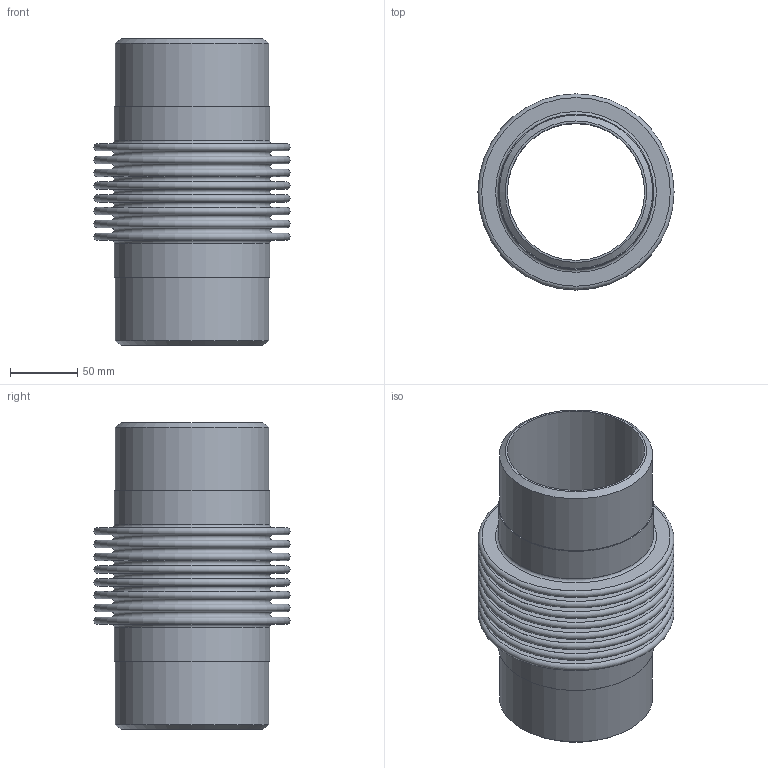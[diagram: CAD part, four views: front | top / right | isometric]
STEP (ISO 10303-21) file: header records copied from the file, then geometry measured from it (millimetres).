
FILE_DESCRIPTION(/* description */ (''),/* implementation_level */ '2;1');
FILE_NAME(/* name */ 'PIPE- 4 - 150 PSIG ASSEMBLY PART.stp',/* time_stamp */ '2026-07-24T15:31:23-05:00',/* author */ ('jorgef'),/* organization */ (''),/* preprocessor_version */ 'ST-DEVELOPER v20.1',/* originating_system */ 'Autodesk Inventor 2026',/* authorisation */ '');
FILE_SCHEMA (('AUTOMOTIVE_DESIGN { 1 0 10303 214 3 1 1 }'));
Length unit declared in the file: inch
Products named in the file (1): PIPE- 4 - 150 PSIG ASSEMBLY PART
Bounding box: 146.05 x 146.05 x 228.6 mm (x, y, z)
Volume: 409707.1 mm3; surface area: 344377.1 mm2
Topology: 1 solids, 1 shells, 80 faces, 126 edges, 84 vertices
Faces by surface type: plane 38, torus 34, cylinder 6, cone 2
Full cylindrical faces by diameter (mm): 102.26 x2, 114.3 x2, 115.824 x2
Entity records: 2035 total; most frequent: DIRECTION 406, CARTESIAN_POINT 291, ORIENTED_EDGE 252, AXIS2_PLACEMENT_3D 199, EDGE_CURVE 126, EDGE_LOOP 118, CIRCLE 118, VERTEX_POINT 84
